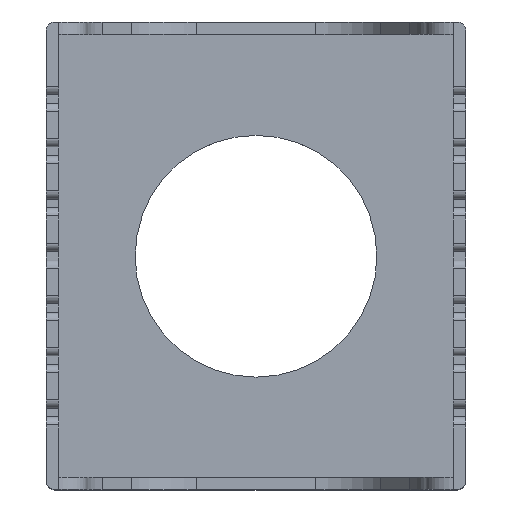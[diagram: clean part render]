
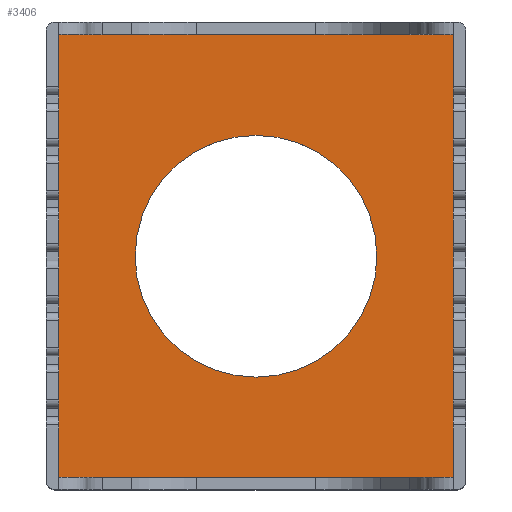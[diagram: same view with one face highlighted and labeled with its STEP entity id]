
A CAD part, top view. The second image highlights one B-rep face of the part: STEP entity #3406.
In plain terms, the highlighted planar face has unit normal (0, 0, 1).
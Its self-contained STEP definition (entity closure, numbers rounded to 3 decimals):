
#62 = PLANE('',#63);
#63 = AXIS2_PLACEMENT_3D('',#64,#65,#66);
#64 = CARTESIAN_POINT('',(3.,113.,77.));
#65 = DIRECTION('',(-1.,0.,0.));
#66 = DIRECTION('',(0.,-1.,0.));
#218 = VERTEX_POINT('',#219);
#219 = CARTESIAN_POINT('',(3.,113.,2.));
#233 = PLANE('',#234);
#234 = AXIS2_PLACEMENT_3D('',#235,#236,#237);
#235 = CARTESIAN_POINT('',(101.,113.,77.));
#236 = DIRECTION('',(0.,1.,0.));
#237 = DIRECTION('',(-1.,0.,0.));
#245 = EDGE_CURVE('',#218,#246,#248,.T.);
#246 = VERTEX_POINT('',#247);
#247 = CARTESIAN_POINT('',(3.,3.,2.));
#248 = SURFACE_CURVE('',#249,(#253,#260),.PCURVE_S1.);
#249 = LINE('',#250,#251);
#250 = CARTESIAN_POINT('',(3.,113.,2.));
#251 = VECTOR('',#252,1.);
#252 = DIRECTION('',(0.,-1.,0.));
#253 = PCURVE('',#62,#254);
#254 = DEFINITIONAL_REPRESENTATION('',(#255),#259);
#255 = LINE('',#256,#257);
#256 = CARTESIAN_POINT('',(-0.,-75.));
#257 = VECTOR('',#258,1.);
#258 = DIRECTION('',(1.,0.));
#259 = ( GEOMETRIC_REPRESENTATION_CONTEXT(2) 
PARAMETRIC_REPRESENTATION_CONTEXT() REPRESENTATION_CONTEXT('2D SPACE',''
  ) );
#260 = PCURVE('',#261,#266);
#261 = PLANE('',#262);
#262 = AXIS2_PLACEMENT_3D('',#263,#264,#265);
#263 = CARTESIAN_POINT('',(52.,58.,2.));
#264 = DIRECTION('',(0.,0.,1.));
#265 = DIRECTION('',(1.,0.,-0.));
#266 = DEFINITIONAL_REPRESENTATION('',(#267),#271);
#267 = LINE('',#268,#269);
#268 = CARTESIAN_POINT('',(-49.,55.));
#269 = VECTOR('',#270,1.);
#270 = DIRECTION('',(0.,-1.));
#271 = ( GEOMETRIC_REPRESENTATION_CONTEXT(2) 
PARAMETRIC_REPRESENTATION_CONTEXT() REPRESENTATION_CONTEXT('2D SPACE',''
  ) );
#289 = PLANE('',#290);
#290 = AXIS2_PLACEMENT_3D('',#291,#292,#293);
#291 = CARTESIAN_POINT('',(3.,3.,77.));
#292 = DIRECTION('',(0.,-1.,0.));
#293 = DIRECTION('',(1.,0.,0.));
#3136 = VERTEX_POINT('',#3137);
#3137 = CARTESIAN_POINT('',(101.,113.,2.));
#3151 = PLANE('',#3152);
#3152 = AXIS2_PLACEMENT_3D('',#3153,#3154,#3155);
#3153 = CARTESIAN_POINT('',(101.,3.,77.));
#3154 = DIRECTION('',(1.,0.,0.));
#3155 = DIRECTION('',(0.,1.,0.));
#3163 = EDGE_CURVE('',#3136,#218,#3164,.T.);
#3164 = SURFACE_CURVE('',#3165,(#3169,#3176),.PCURVE_S1.);
#3165 = LINE('',#3166,#3167);
#3166 = CARTESIAN_POINT('',(101.,113.,2.));
#3167 = VECTOR('',#3168,1.);
#3168 = DIRECTION('',(-1.,0.,0.));
#3169 = PCURVE('',#233,#3170);
#3170 = DEFINITIONAL_REPRESENTATION('',(#3171),#3175);
#3171 = LINE('',#3172,#3173);
#3172 = CARTESIAN_POINT('',(0.,-75.));
#3173 = VECTOR('',#3174,1.);
#3174 = DIRECTION('',(1.,0.));
#3175 = ( GEOMETRIC_REPRESENTATION_CONTEXT(2) 
PARAMETRIC_REPRESENTATION_CONTEXT() REPRESENTATION_CONTEXT('2D SPACE',''
  ) );
#3176 = PCURVE('',#261,#3177);
#3177 = DEFINITIONAL_REPRESENTATION('',(#3178),#3182);
#3178 = LINE('',#3179,#3180);
#3179 = CARTESIAN_POINT('',(49.,55.));
#3180 = VECTOR('',#3181,1.);
#3181 = DIRECTION('',(-1.,0.));
#3182 = ( GEOMETRIC_REPRESENTATION_CONTEXT(2) 
PARAMETRIC_REPRESENTATION_CONTEXT() REPRESENTATION_CONTEXT('2D SPACE',''
  ) );
#3406 = ADVANCED_FACE('',(#3407,#3455),#261,.T.);
#3407 = FACE_BOUND('',#3408,.T.);
#3408 = EDGE_LOOP('',(#3409,#3410,#3433,#3454));
#3409 = ORIENTED_EDGE('',*,*,#245,.T.);
#3410 = ORIENTED_EDGE('',*,*,#3411,.T.);
#3411 = EDGE_CURVE('',#246,#3412,#3414,.T.);
#3412 = VERTEX_POINT('',#3413);
#3413 = CARTESIAN_POINT('',(101.,3.,2.));
#3414 = SURFACE_CURVE('',#3415,(#3419,#3426),.PCURVE_S1.);
#3415 = LINE('',#3416,#3417);
#3416 = CARTESIAN_POINT('',(3.,3.,2.));
#3417 = VECTOR('',#3418,1.);
#3418 = DIRECTION('',(1.,0.,0.));
#3419 = PCURVE('',#261,#3420);
#3420 = DEFINITIONAL_REPRESENTATION('',(#3421),#3425);
#3421 = LINE('',#3422,#3423);
#3422 = CARTESIAN_POINT('',(-49.,-55.));
#3423 = VECTOR('',#3424,1.);
#3424 = DIRECTION('',(1.,0.));
#3425 = ( GEOMETRIC_REPRESENTATION_CONTEXT(2) 
PARAMETRIC_REPRESENTATION_CONTEXT() REPRESENTATION_CONTEXT('2D SPACE',''
  ) );
#3426 = PCURVE('',#289,#3427);
#3427 = DEFINITIONAL_REPRESENTATION('',(#3428),#3432);
#3428 = LINE('',#3429,#3430);
#3429 = CARTESIAN_POINT('',(0.,-75.));
#3430 = VECTOR('',#3431,1.);
#3431 = DIRECTION('',(1.,0.));
#3432 = ( GEOMETRIC_REPRESENTATION_CONTEXT(2) 
PARAMETRIC_REPRESENTATION_CONTEXT() REPRESENTATION_CONTEXT('2D SPACE',''
  ) );
#3433 = ORIENTED_EDGE('',*,*,#3434,.T.);
#3434 = EDGE_CURVE('',#3412,#3136,#3435,.T.);
#3435 = SURFACE_CURVE('',#3436,(#3440,#3447),.PCURVE_S1.);
#3436 = LINE('',#3437,#3438);
#3437 = CARTESIAN_POINT('',(101.,3.,2.));
#3438 = VECTOR('',#3439,1.);
#3439 = DIRECTION('',(0.,1.,0.));
#3440 = PCURVE('',#261,#3441);
#3441 = DEFINITIONAL_REPRESENTATION('',(#3442),#3446);
#3442 = LINE('',#3443,#3444);
#3443 = CARTESIAN_POINT('',(49.,-55.));
#3444 = VECTOR('',#3445,1.);
#3445 = DIRECTION('',(0.,1.));
#3446 = ( GEOMETRIC_REPRESENTATION_CONTEXT(2) 
PARAMETRIC_REPRESENTATION_CONTEXT() REPRESENTATION_CONTEXT('2D SPACE',''
  ) );
#3447 = PCURVE('',#3151,#3448);
#3448 = DEFINITIONAL_REPRESENTATION('',(#3449),#3453);
#3449 = LINE('',#3450,#3451);
#3450 = CARTESIAN_POINT('',(0.,-75.));
#3451 = VECTOR('',#3452,1.);
#3452 = DIRECTION('',(1.,0.));
#3453 = ( GEOMETRIC_REPRESENTATION_CONTEXT(2) 
PARAMETRIC_REPRESENTATION_CONTEXT() REPRESENTATION_CONTEXT('2D SPACE',''
  ) );
#3454 = ORIENTED_EDGE('',*,*,#3163,.T.);
#3455 = FACE_BOUND('',#3456,.T.);
#3456 = EDGE_LOOP('',(#3457));
#3457 = ORIENTED_EDGE('',*,*,#3458,.T.);
#3458 = EDGE_CURVE('',#3459,#3459,#3461,.T.);
#3459 = VERTEX_POINT('',#3460);
#3460 = CARTESIAN_POINT('',(22.,58.,2.));
#3461 = SURFACE_CURVE('',#3462,(#3467,#3478),.PCURVE_S1.);
#3462 = CIRCLE('',#3463,30.);
#3463 = AXIS2_PLACEMENT_3D('',#3464,#3465,#3466);
#3464 = CARTESIAN_POINT('',(52.,58.,2.));
#3465 = DIRECTION('',(0.,0.,-1.));
#3466 = DIRECTION('',(-1.,0.,-0.));
#3467 = PCURVE('',#261,#3468);
#3468 = DEFINITIONAL_REPRESENTATION('',(#3469),#3477);
#3469 = ( BOUNDED_CURVE() B_SPLINE_CURVE(2,(#3470,#3471,#3472,#3473,
#3474,#3475,#3476),.UNSPECIFIED.,.T.,.F.) B_SPLINE_CURVE_WITH_KNOTS((1,2
    ,2,2,2,1),(-2.094,0.,2.094,4.189,
6.283,8.378),.UNSPECIFIED.) CURVE() 
GEOMETRIC_REPRESENTATION_ITEM() RATIONAL_B_SPLINE_CURVE((1.,0.5,1.,0.5,
1.,0.5,1.)) REPRESENTATION_ITEM('') );
#3470 = CARTESIAN_POINT('',(-30.,0.));
#3471 = CARTESIAN_POINT('',(-30.,51.962));
#3472 = CARTESIAN_POINT('',(15.,25.981));
#3473 = CARTESIAN_POINT('',(60.,0.));
#3474 = CARTESIAN_POINT('',(15.,-25.981));
#3475 = CARTESIAN_POINT('',(-30.,-51.962));
#3476 = CARTESIAN_POINT('',(-30.,0.));
#3477 = ( GEOMETRIC_REPRESENTATION_CONTEXT(2) 
PARAMETRIC_REPRESENTATION_CONTEXT() REPRESENTATION_CONTEXT('2D SPACE',''
  ) );
#3478 = PCURVE('',#3479,#3484);
#3479 = CYLINDRICAL_SURFACE('',#3480,30.);
#3480 = AXIS2_PLACEMENT_3D('',#3481,#3482,#3483);
#3481 = CARTESIAN_POINT('',(52.,58.,0.));
#3482 = DIRECTION('',(0.,0.,-1.));
#3483 = DIRECTION('',(-1.,0.,-0.));
#3484 = DEFINITIONAL_REPRESENTATION('',(#3485),#3489);
#3485 = LINE('',#3486,#3487);
#3486 = CARTESIAN_POINT('',(0.,-2.));
#3487 = VECTOR('',#3488,1.);
#3488 = DIRECTION('',(1.,0.));
#3489 = ( GEOMETRIC_REPRESENTATION_CONTEXT(2) 
PARAMETRIC_REPRESENTATION_CONTEXT() REPRESENTATION_CONTEXT('2D SPACE',''
  ) );
